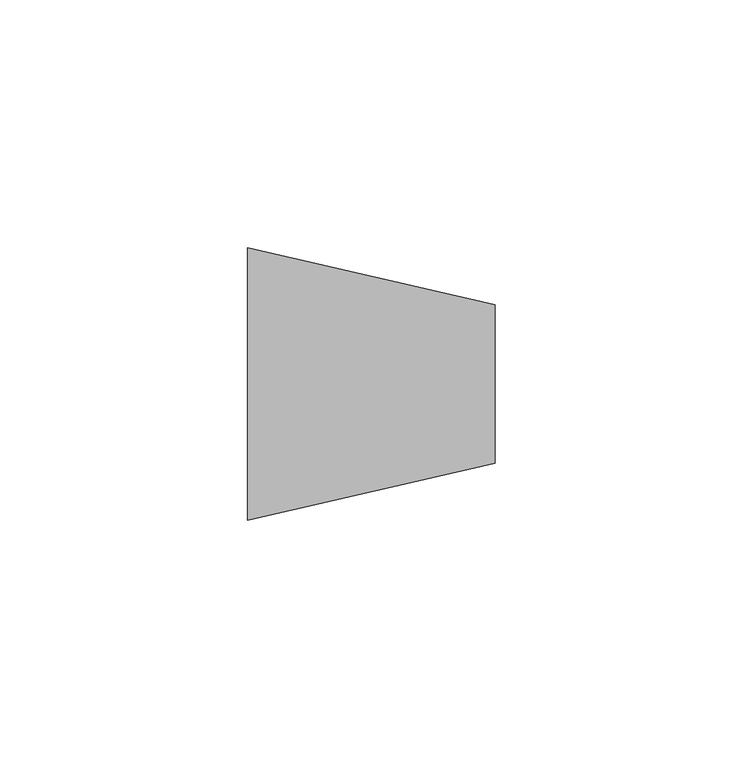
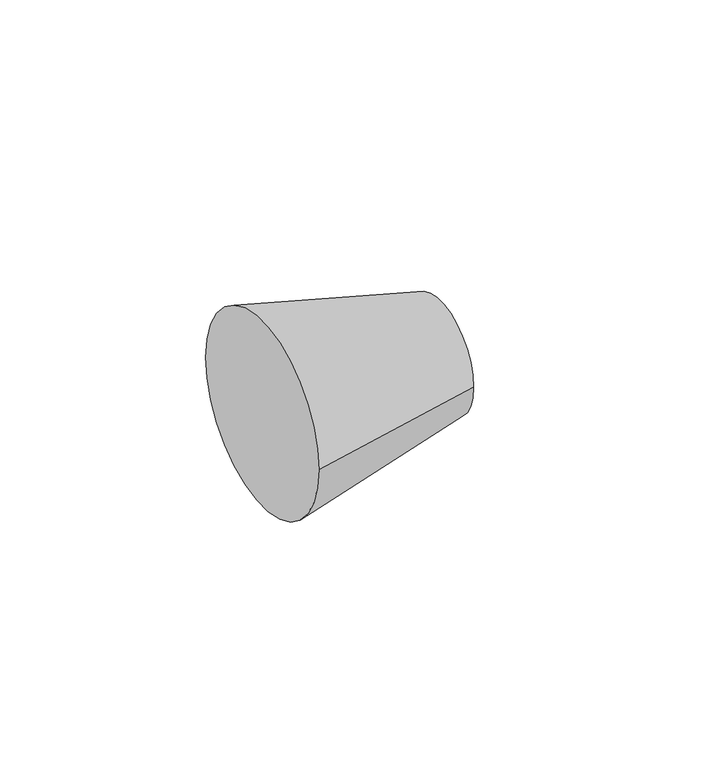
"""IFC4 building model written with IfcOpenShell, lengths in millimetres: pipe fitting geometry, ADSK_ЧугунРезьба_МуфтаПереходная_ГОСТ8957-75 : Неоцинкованные."""

from ifc_helpers import new_model, si_unit, frame, origin, place, context, project, spatial, polyline, circle_curve, source, transform, mapped, element, save
from ifc_brep_helpers import plane_surface, revolved_surface, advanced_brep


def pipe_fitting_bc65f26d(model_context):
    return source(origin(), model_context, "Body", "AdvancedBrep", [
        advanced_brep(
        [(50.0, -16.0, 0.0), (50.0, 16.0, 0.0), (0.0, -27.5, 0.0), (0.0, 27.5, 0.0)],
        [
            (0, 1, circle_curve(frame((50.0, 0.0, 0.0), z_axis=(1.0, 0.0, 0.0), x_axis=(0.0, -1.0, 0.0)), 16.0)),
            (1, 0, circle_curve(frame((50.0, 0.0, 0.0), z_axis=(1.0, 0.0, 0.0), x_axis=(0.0, 1.0, 0.0)), 16.0)),
            (2, 3, circle_curve(frame((0.0, 0.0, 0.0), z_axis=(-1.0, 0.0, 0.0), x_axis=(0.0, 1.0, 0.0)), 27.5)),
            (3, 2, circle_curve(frame((0.0, 0.0, 0.0), z_axis=(-1.0, 0.0, 0.0), x_axis=(0.0, -1.0, 0.0)), 27.5)),
            (3, 1),
            (0, 2),
        ],
        [
            plane_surface(frame((50.0, 0.0, 0.0), z_axis=(1.0, 0.0, 0.0), x_axis=(0.0, 0.0, -1.0))),
            plane_surface(frame((0.0, 0.0, 0.0), z_axis=(-1.0, 0.0, 0.0), x_axis=(0.0, 0.0, -1.0))),
            revolved_surface(polyline([(50.0, -16.000000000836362, 0.0), (0.0, -27.5, 0.0)]), (119.5652174, 0.0, 0.0), (-1.0, 0.0, 0.0)),
            revolved_surface(polyline([(50.0, 16.000000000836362, 0.0), (0.0, 27.5, 0.0)]), (119.5652174, 0.0, 0.0), (-1.0, 0.0, 0.0)),
        ],
        [
            (0, [[1, 2]]),
            (1, [[3, 4]]),
            (2, [[-4, 5, -1, 6]]),
            (3, [[-3, -6, -2, -5]]),
        ],
    ),
    ])


if __name__ == "__main__":
    model = new_model("IFC4")
    model_context = context("Model", 3, world=origin())
    ifc_project = project(units=[si_unit("LENGTHUNIT", "METRE", prefix="MILLI")], contexts=[model_context])
    site = spatial("IfcSite", under=ifc_project)
    building = spatial("IfcBuilding", under=site)
    placement = place(None, origin())
    pipe_fitting_shape = pipe_fitting_bc65f26d(model_context)
    element("IfcPipeFitting", 1, ObjectType="ADSK_ЧугунРезьба_МуфтаПереходная_ГОСТ8957-75 : Неоцинкованные", at=placement, inside=building, context=model_context, shape_type="MappedRepresentation", body=[
        mapped(pipe_fitting_shape, transform((0.0, 0.0, 0.0), x_axis=(1.0, 0.0, 0.0), y_axis=(0.0, 1.0, 0.0), z_axis=(0.0, 0.0, 1.0))),
    ])
    save(model, "model.ifc")
